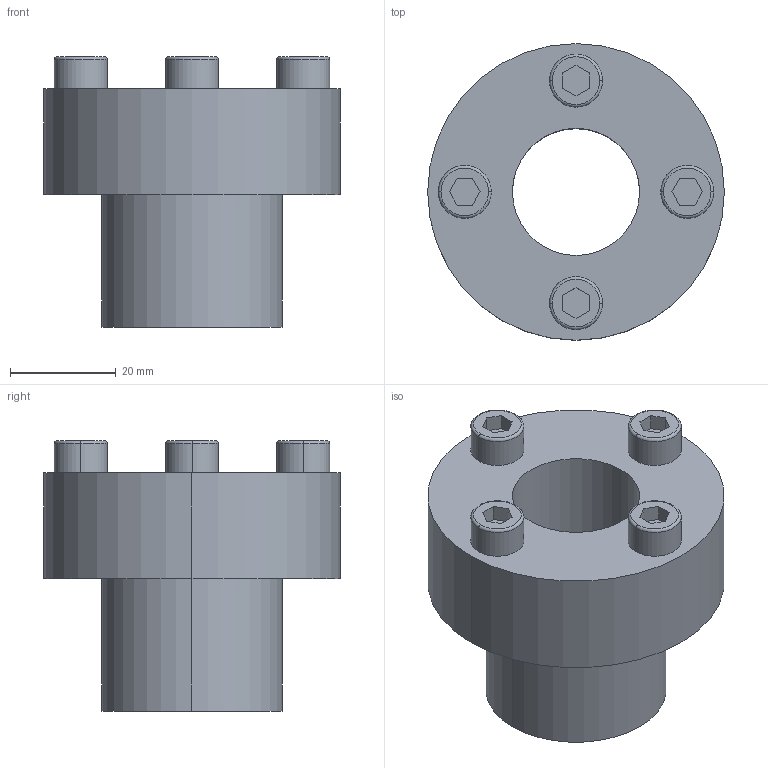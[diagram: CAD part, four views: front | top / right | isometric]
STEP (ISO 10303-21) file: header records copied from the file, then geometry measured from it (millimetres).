
FILE_DESCRIPTION (( 'STEP AP203' ), '1' );
FILE_NAME ('PL-C 24-34.STEP', '2021-10-22T08:30:24', ( '' ), ( '' ), 'SwSTEP 2.0', 'SolidWorks 2018', '' );
FILE_SCHEMA (( 'CONFIG_CONTROL_DESIGN' ));
Length unit declared in the file: millimetre
Products named in the file (1): PL-C 24-34
Bounding box: 56 x 56 x 51 mm (x, y, z)
Volume: 53219.2 mm3; surface area: 14537.5 mm2
Topology: 1 solids, 1 shells, 57 faces, 130 edges, 84 vertices
Faces by surface type: plane 35, cylinder 14, torus 8
Entity records: 1685 total; most frequent: DIRECTION 290, CARTESIAN_POINT 272, ORIENTED_EDGE 260, EDGE_CURVE 130, AXIS2_PLACEMENT_3D 102, VECTOR 86, LINE 86, VERTEX_POINT 84
